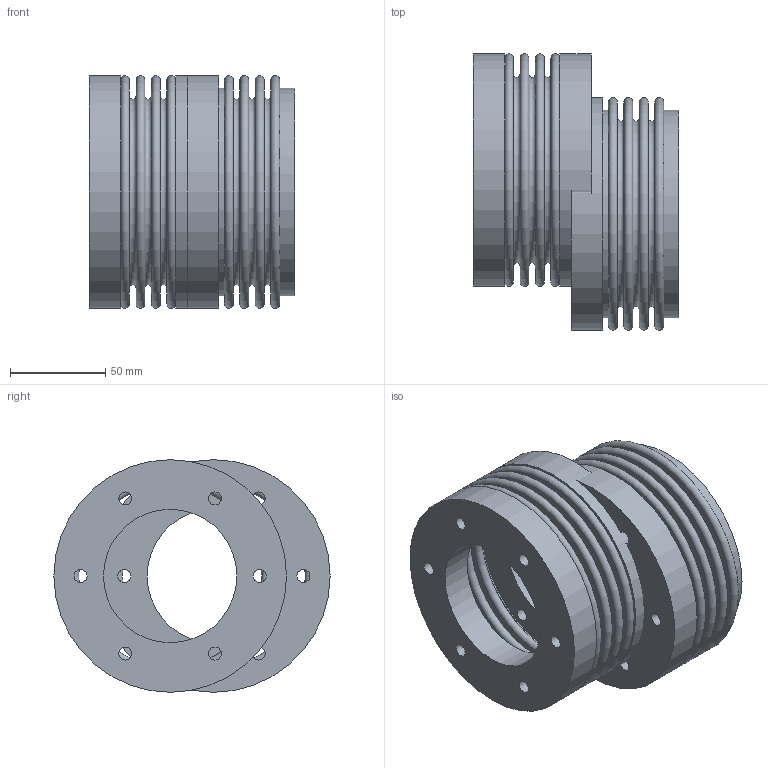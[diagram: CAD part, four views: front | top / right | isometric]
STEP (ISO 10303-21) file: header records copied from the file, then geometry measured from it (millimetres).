
FILE_DESCRIPTION( ( 'Unknown' ), '1' );
FILE_NAME( 'C:/Dokumente und Einstellungen/Sven/Desktop/homepage/cad - homepage/KB7/KB7-500-61.stp', 'Unknown', ( 'Unknown' ), ( 'Unknown' ), 'XStep 1.0', 'Unknown', ' ' );
FILE_SCHEMA( ( 'automotive_design' ) );
Length unit declared in the file: millimetre
Products named in the file (3): Assem1; FN500_Standard; BK500_Standard
Bounding box: 107.94 x 144.9 x 122 mm (x, y, z)
Volume: 427109.6 mm3; surface area: 248577.2 mm2
Topology: 5 solids, 5 shells, 102 faces, 180 edges, 120 vertices
Faces by surface type: plane 42, cylinder 32, torus 28
Full cylindrical faces by diameter (mm): 6.8 x18, 70 x3, 107.7 x4, 108.9 x4, 122 x3
Entity records: 1154 total; most frequent: DIRECTION 204, CARTESIAN_POINT 154, EDGE_LOOP 104, ORIENTED_EDGE 104, AXIS2_PLACEMENT_3D 102, FACE_OUTER_BOUND 72, EDGE_CURVE 52, VERTEX_POINT 52
